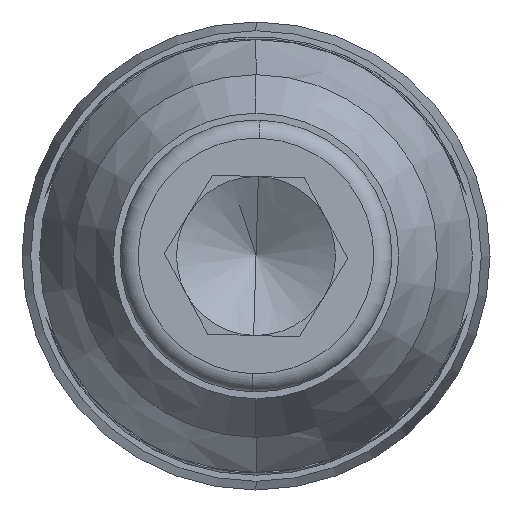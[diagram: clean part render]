
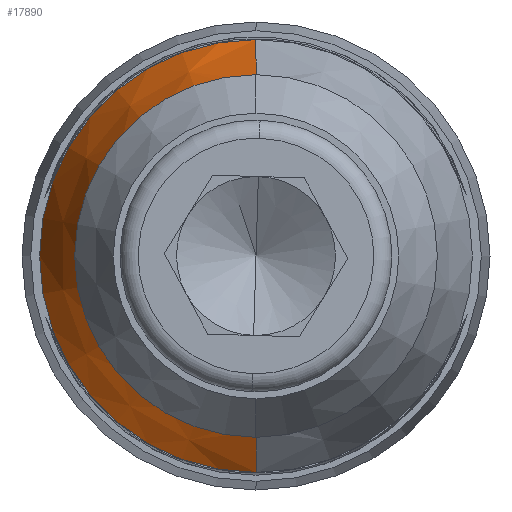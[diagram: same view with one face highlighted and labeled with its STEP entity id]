
A CAD part, left-side view. The second image highlights one B-rep face of the part: STEP entity #17890.
In plain terms, the highlighted conical face has half-angle 19.44 degrees and reference radius 15.5 mm.
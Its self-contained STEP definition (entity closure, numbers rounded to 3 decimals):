
#924 = DIRECTION ( 'NONE',  ( 1., 0., 0. ) ) ;
#1487 = VERTEX_POINT ( 'NONE', #15368 ) ;
#1749 = VECTOR ( 'NONE', #13445, 1000. ) ;
#2302 = DIRECTION ( 'NONE',  ( 0., 0., 1. ) ) ;
#3612 = CARTESIAN_POINT ( 'NONE',  ( -32.02, 19.183, 15.5 ) ) ;
#4274 = CARTESIAN_POINT ( 'NONE',  ( -21.82, 19.183, -19.1 ) ) ;
#5145 = EDGE_CURVE ( 'NONE', #8940, #15945, #9309, .T. ) ;
#5195 = LINE ( 'NONE', #19460, #20932 ) ;
#5640 = EDGE_CURVE ( 'NONE', #15945, #1487, #5195, .T. ) ;
#5784 = AXIS2_PLACEMENT_3D ( 'NONE', #19766, #14275, #2302 ) ;
#6331 = DIRECTION ( 'NONE',  ( 0., 0., -1. ) ) ;
#7555 = DIRECTION ( 'NONE',  ( 0.943, 0., 0.333 ) ) ;
#7874 = CARTESIAN_POINT ( 'NONE',  ( -32.02, 19.183, 0. ) ) ;
#8074 = ORIENTED_EDGE ( 'NONE', *, *, #9435, .F. ) ;
#8940 = VERTEX_POINT ( 'NONE', #12234 ) ;
#9309 = CIRCLE ( 'NONE', #9784, 15.5 ) ;
#9435 = EDGE_CURVE ( 'NONE', #8940, #22475, #10956, .T. ) ;
#9784 = AXIS2_PLACEMENT_3D ( 'NONE', #21455, #924, #11189 ) ;
#10340 = EDGE_CURVE ( 'NONE', #1487, #22475, #16658, .T. ) ;
#10956 = LINE ( 'NONE', #18399, #1749 ) ;
#11189 = DIRECTION ( 'NONE',  ( 0., 0., -1. ) ) ;
#11771 = ORIENTED_EDGE ( 'NONE', *, *, #10340, .T. ) ;
#12234 = CARTESIAN_POINT ( 'NONE',  ( -32.02, 19.183, -15.5 ) ) ;
#12732 = DIRECTION ( 'NONE',  ( 1., 0., 0. ) ) ;
#12932 = ORIENTED_EDGE ( 'NONE', *, *, #5640, .T. ) ;
#13021 = FACE_OUTER_BOUND ( 'NONE', #18005, .T. ) ;
#13037 = AXIS2_PLACEMENT_3D ( 'NONE', #7874, #12732, #6331 ) ;
#13445 = DIRECTION ( 'NONE',  ( 0.943, 0., -0.333 ) ) ;
#14275 = DIRECTION ( 'NONE',  ( -1., 0., 0. ) ) ;
#15368 = CARTESIAN_POINT ( 'NONE',  ( -21.82, 19.183, 19.1 ) ) ;
#15945 = VERTEX_POINT ( 'NONE', #3612 ) ;
#16658 = CIRCLE ( 'NONE', #5784, 19.1 ) ;
#17890 = ADVANCED_FACE ( 'NONE', ( #13021 ), #18451, .T. ) ;
#18005 = EDGE_LOOP ( 'NONE', ( #20726, #12932, #11771, #8074 ) ) ;
#18399 = CARTESIAN_POINT ( 'NONE',  ( -32.02, 19.183, -15.5 ) ) ;
#18451 = CONICAL_SURFACE ( 'NONE', #13037, 15.5, 0.339 ) ;
#19460 = CARTESIAN_POINT ( 'NONE',  ( -32.02, 19.183, 15.5 ) ) ;
#19766 = CARTESIAN_POINT ( 'NONE',  ( -21.82, 19.183, 0. ) ) ;
#20726 = ORIENTED_EDGE ( 'NONE', *, *, #5145, .T. ) ;
#20932 = VECTOR ( 'NONE', #7555, 1000. ) ;
#21455 = CARTESIAN_POINT ( 'NONE',  ( -32.02, 19.183, 0. ) ) ;
#22475 = VERTEX_POINT ( 'NONE', #4274 ) ;
